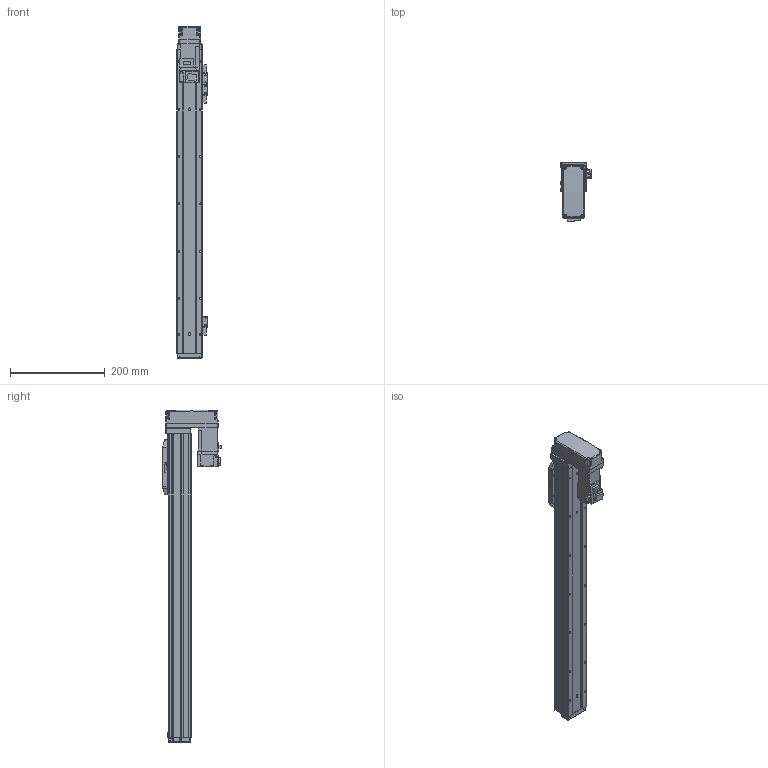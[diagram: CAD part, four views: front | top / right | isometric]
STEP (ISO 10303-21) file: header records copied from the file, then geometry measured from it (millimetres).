
FILE_DESCRIPTION (( 'STEP AP214' ), '1' );
FILE_NAME ('N_GRH5-500-BM-M10.step', '2025-03-14T10:50:58', ( '' ), ( '' ), 'SwSTEP 2.0', 'SolidWorks 2016', '' );
FILE_SCHEMA (( 'AUTOMOTIVE_DESIGN' ));
Length unit declared in the file: millimetre
Products named in the file (5): N_GRH5-500-BM-M10; N_GRH5-BL-008^N_GRH5-500-BM-M10; N_GRH5-GY-011^N_GRH5-500-BM-M10; HF-KP13_100W_Motor^N_GRH5-500-BM-M10; N_GRH5-GY-004^N_GRH5-500-BM-M10
Assembly tree (4 placements, depth 2):
  N_GRH5-500-BM-M10
    N_GRH5-GY-011^N_GRH5-500-BM-M10
    N_GRH5-GY-004^N_GRH5-500-BM-M10
    HF-KP13_100W_Motor^N_GRH5-500-BM-M10
    N_GRH5-BL-008^N_GRH5-500-BM-M10
Bounding box: 64.05 x 123.7 x 700.5 mm (x, y, z)
Volume: 1379884 mm3; surface area: 345315.1 mm2
Topology: 4 solids, 5 shells, 954 faces, 2432 edges, 1541 vertices
Faces by surface type: plane 551, cylinder 328, cone 50, bspline 15, sphere 10
Entity records: 36291 total; most frequent: CARTESIAN_POINT 5693, DIRECTION 4925, ORIENTED_EDGE 4800, EDGE_CURVE 2400, VECTOR 1651, LINE 1651, AXIS2_PLACEMENT_3D 1637, VERTEX_POINT 1539
